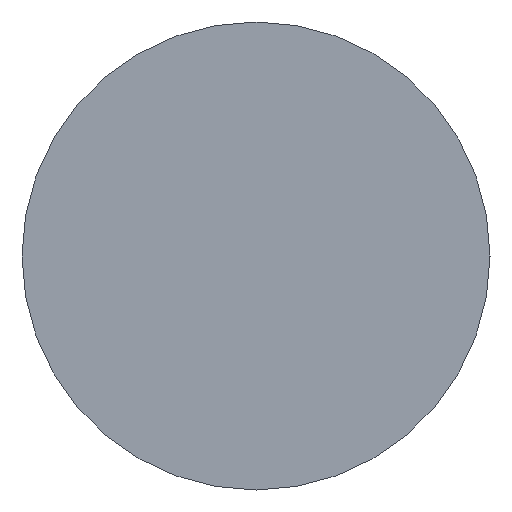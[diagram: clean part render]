
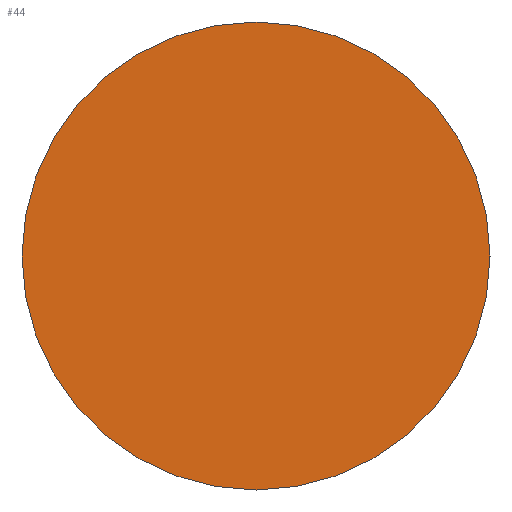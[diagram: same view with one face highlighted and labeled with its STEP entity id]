
A CAD part, left-side view. The second image highlights one B-rep face of the part: STEP entity #44.
In plain terms, the highlighted planar face has unit normal (-1, 0, 0).
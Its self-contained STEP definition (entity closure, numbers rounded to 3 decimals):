
#5 = FACE_OUTER_BOUND ( 'NONE', #217, .T. ) ;
#25 = AXIS2_PLACEMENT_3D ( 'NONE', #97, #121, #154 ) ;
#34 = AXIS2_PLACEMENT_3D ( 'NONE', #322, #78, #185 ) ;
#44 = ADVANCED_FACE ( 'NONE', ( #5 ), #102, .F. ) ;
#69 = EDGE_CURVE ( 'NONE', #196, #220, #193, .T. ) ;
#78 = DIRECTION ( 'NONE',  ( 1., 0., 0. ) ) ;
#84 = CARTESIAN_POINT ( 'NONE',  ( -67., 0., 5. ) ) ;
#97 = CARTESIAN_POINT ( 'NONE',  ( -67., 0., 0. ) ) ;
#102 = PLANE ( 'NONE',  #34 ) ;
#121 = DIRECTION ( 'NONE',  ( -1., 0., 0. ) ) ;
#130 = CARTESIAN_POINT ( 'NONE',  ( -67., 0., -5. ) ) ;
#135 = ORIENTED_EDGE ( 'NONE', *, *, #69, .T. ) ;
#154 = DIRECTION ( 'NONE',  ( 0., 0., 1. ) ) ;
#159 = AXIS2_PLACEMENT_3D ( 'NONE', #341, #208, #234 ) ;
#185 = DIRECTION ( 'NONE',  ( 0., 0., -1. ) ) ;
#193 = CIRCLE ( 'NONE', #25, 5. ) ;
#196 = VERTEX_POINT ( 'NONE', #130 ) ;
#208 = DIRECTION ( 'NONE',  ( -1., 0., 0. ) ) ;
#217 = EDGE_LOOP ( 'NONE', ( #304, #135 ) ) ;
#220 = VERTEX_POINT ( 'NONE', #84 ) ;
#234 = DIRECTION ( 'NONE',  ( 0., 0., 1. ) ) ;
#294 = CIRCLE ( 'NONE', #159, 5. ) ;
#304 = ORIENTED_EDGE ( 'NONE', *, *, #317, .T. ) ;
#317 = EDGE_CURVE ( 'NONE', #220, #196, #294, .T. ) ;
#322 = CARTESIAN_POINT ( 'NONE',  ( -67., 5., 0. ) ) ;
#341 = CARTESIAN_POINT ( 'NONE',  ( -67., 0., 0. ) ) ;
